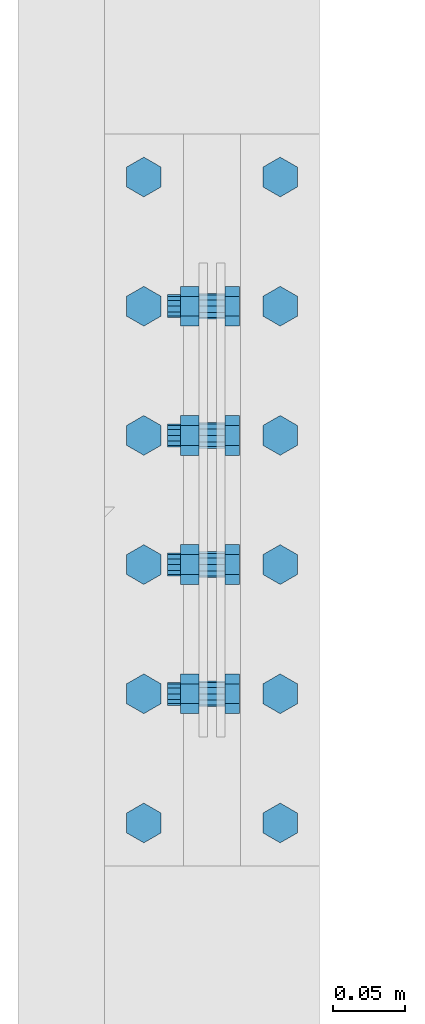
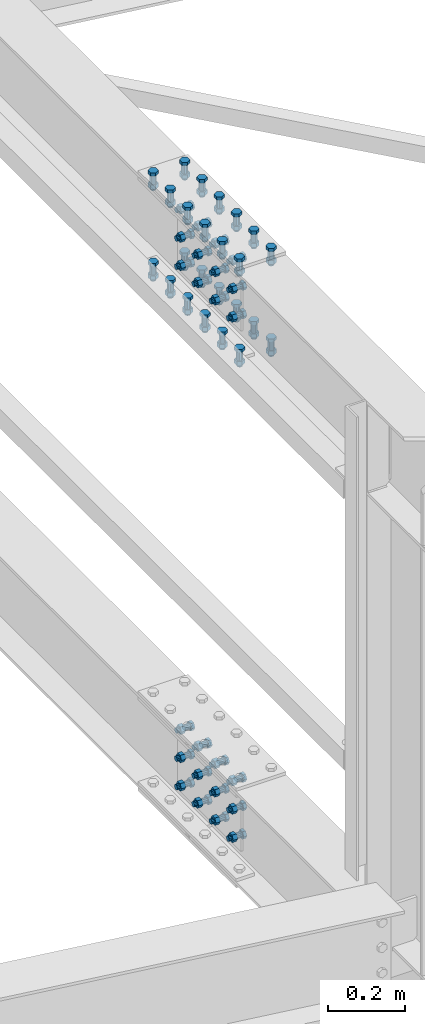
# One storey, part 143 of 3134: 12 mechanical fasteners, 2 elements without a shape of their own.
"""IFC2X3 building model written with IfcOpenShell, lengths in millimetres."""

from ifc_helpers import new_model, si_unit, frame, origin_with_axes, place, context, subcontext, project, spatial, faceted_brep, source, transform, mapped, material, type_object, element, aggregate, save


model = new_model("IFC2X3")

# Units and contexts
model_context = context("Model", 3, precision=1e-05, world=origin_with_axes())
body_context = subcontext(model_context, "Body", "Model", "MODEL_VIEW")
ifc_project = project(units=[si_unit("LENGTHUNIT", "METRE", prefix="MILLI"), si_unit("AREAUNIT", "SQUARE_METRE"), si_unit("VOLUMEUNIT", "CUBIC_METRE"), si_unit("MASSUNIT", "GRAM", prefix="KILO"), si_unit("TIMEUNIT", "SECOND"), si_unit("PLANEANGLEUNIT", "RADIAN"), si_unit("SOLIDANGLEUNIT", "STERADIAN"), si_unit("THERMODYNAMICTEMPERATUREUNIT", "DEGREE_CELSIUS"), si_unit("LUMINOUSINTENSITYUNIT", "LUMEN")], contexts=[model_context])

# Site, building, storey
site_placement = place(None, origin_with_axes())
site = spatial("IfcSite", under=ifc_project, at=site_placement, CompositionType="ELEMENT")
building_placement = place(site_placement, origin_with_axes())
building = spatial("IfcBuilding", under=site, at=building_placement, Name="Undefined", CompositionType="ELEMENT")
storey_placement = place(building_placement, origin_with_axes())
storey = spatial("IfcBuildingStorey", under=building, at=storey_placement, Name="Undefined", CompositionType="ELEMENT", Elevation=0.0)

# Assembly, mechanical fastener
assembly_1_placement = place(storey_placement, origin_with_axes())
assembly_1 = element("IfcElementAssembly", 1, at=assembly_1_placement, inside=storey, Name="300", AssemblyPlace="NOTDEFINED", PredefinedType="RIGID_FRAME")
ifc_material = material(Name="8.8")
mechanical_fastener_type = type_object("IfcMechanicalFastenerType", Name="Bolt assembly")
shared_shape_1 = source(origin_with_axes(), body_context, "Body", "Brep", [
    faceted_brep([(13.856406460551, -19.0499999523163, 0.0), (6.92820323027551, -19.0499999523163, 12.0), (-6.92820323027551, -19.0499999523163, 12.0), (-13.856406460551, -19.0499999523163, 1.69692038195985e-15), (-6.92820323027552, -19.0499999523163, -12.0), (6.9282032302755, -19.0499999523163, -12.0), (6.9282032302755, -9.04999995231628, -12.0), (-6.92820323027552, -9.04999995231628, -12.0), (-13.856406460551, -9.04999995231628, 1.69692038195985e-15), (-6.92820323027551, -9.04999995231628, 12.0), (6.92820323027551, -9.04999995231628, 12.0), (13.856406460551, -9.04999995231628, 0.0), (8.0, -9.04999995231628, 0.0), (6.92820323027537, -9.04999995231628, 4.00000000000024), (3.99999999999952, -9.04999995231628, 6.92820323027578), (-8.29068785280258e-13, -9.04999995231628, 8.0), (-4.00000000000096, -9.04999995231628, 6.92820323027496), (-6.9282032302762, -9.04999995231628, 3.99999999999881), (-8.0, -9.04999995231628, -1.65813757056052e-12), (-6.92820323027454, -9.04999995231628, -4.00000000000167), (-3.99999999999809, -9.04999995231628, -6.92820323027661), (2.47832457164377e-12, -9.04999995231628, -8.0), (4.00000000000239, -9.04999995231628, -6.92820323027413), (6.92820323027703, -9.04999995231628, -3.99999999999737), (6.92820323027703, 30.9500000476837, -3.99999999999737), (4.00000000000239, 30.9500000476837, -6.92820323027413), (2.47832457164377e-12, 30.9500000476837, -8.0), (-3.99999999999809, 30.9500000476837, -6.92820323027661), (-6.92820323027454, 30.9500000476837, -4.00000000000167), (-8.0, 30.9500000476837, -1.65813757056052e-12), (-6.9282032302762, 30.9500000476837, 3.99999999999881), (-4.00000000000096, 30.9500000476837, 6.92820323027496), (-8.29068785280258e-13, 30.9500000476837, 8.0), (3.99999999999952, 30.9500000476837, 6.92820323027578), (6.92820323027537, 30.9500000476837, 4.00000000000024), (8.0, 30.9500000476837, 0.0), (13.856406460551, 9.04999995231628, 0.0), (6.92820323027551, 9.04999995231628, 12.0), (-6.92820323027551, 9.04999995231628, 12.0), (-13.856406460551, 9.04999995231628, 1.69692038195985e-15), (-6.92820323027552, 9.04999995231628, -12.0), (6.9282032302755, 9.04999995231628, -12.0), (6.9282032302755, 22.0499999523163, -12.0), (-6.92820323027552, 22.0499999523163, -12.0), (-13.856406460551, 22.0499999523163, 1.69692038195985e-15), (-6.92820323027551, 22.0499999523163, 12.0), (6.92820323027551, 22.0499999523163, 12.0), (13.856406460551, 22.0499999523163, 0.0)], [[[0, 1, 2, 3, 4, 5]], [[6, 7, 8, 9, 10, 11]], [[0, 11, 10, 1]], [[1, 10, 9, 2]], [[2, 9, 8, 3]], [[3, 8, 7, 4]], [[4, 7, 6, 5]], [[5, 6, 11, 0]], [[12, 13, 14, 15, 16, 17, 18, 19, 20, 21, 22, 23]], [[24, 25, 26, 27, 28, 29, 30, 31, 32, 33, 34, 35]], [[12, 35, 34, 13]], [[13, 34, 33, 14]], [[14, 33, 32, 15]], [[15, 32, 31, 16]], [[16, 31, 30, 17]], [[17, 30, 29, 18]], [[18, 29, 28, 19]], [[19, 28, 27, 20]], [[20, 27, 26, 21]], [[21, 26, 25, 22]], [[22, 25, 24, 23]], [[23, 24, 35, 12]], [[36, 37, 38, 39, 40, 41]], [[42, 43, 44, 45, 46, 47]], [[36, 47, 46, 37]], [[37, 46, 45, 38]], [[38, 45, 44, 39]], [[39, 44, 43, 40]], [[40, 43, 42, 41]], [[41, 42, 47, 36]]]),
    faceted_brep([(9.0, -8.94999995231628, 0.0), (7.79422863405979, -8.94999995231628, 4.50000000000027), (4.49999999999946, -8.94999995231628, 7.79422863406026), (-9.3270238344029e-13, -8.94999995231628, 9.0), (-4.50000000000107, -8.94999995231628, 7.79422863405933), (-7.79422863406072, -8.94999995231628, 4.49999999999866), (-9.0, -8.94999995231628, -1.86540476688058e-12), (-7.79422863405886, -8.94999995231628, -4.50000000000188), (-4.49999999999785, -8.94999995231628, -7.79422863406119), (2.78811514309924e-12, -8.94999995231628, -9.0), (4.50000000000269, -8.94999995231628, -7.7942286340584), (7.79422863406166, -8.94999995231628, -4.49999999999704), (7.79422863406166, -2.94999995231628, -4.49999999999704), (4.50000000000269, -2.94999995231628, -7.7942286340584), (2.78811514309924e-12, -2.94999995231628, -9.0), (-4.49999999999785, -2.94999995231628, -7.79422863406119), (-7.79422863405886, -2.94999995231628, -4.50000000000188), (-9.0, -2.94999995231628, -1.86540476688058e-12), (-7.79422863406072, -2.94999995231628, 4.49999999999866), (-4.50000000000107, -2.94999995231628, 7.79422863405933), (-9.3270238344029e-13, -2.94999995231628, 9.0), (4.49999999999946, -2.94999995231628, 7.79422863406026), (7.79422863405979, -2.94999995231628, 4.50000000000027), (9.0, -2.94999995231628, 0.0), (9.0, -3.04999995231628, 0.0), (7.79422863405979, -3.04999995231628, 4.50000000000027), (4.49999999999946, -3.04999995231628, 7.79422863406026), (-9.3270238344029e-13, -3.04999995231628, 9.0), (-4.50000000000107, -3.04999995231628, 7.79422863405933), (-7.79422863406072, -3.04999995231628, 4.49999999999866), (-9.0, -3.04999995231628, -1.86540476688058e-12), (-7.79422863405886, -3.04999995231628, -4.50000000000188), (-4.49999999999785, -3.04999995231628, -7.79422863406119), (2.78811514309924e-12, -3.04999995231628, -9.0), (4.50000000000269, -3.04999995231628, -7.7942286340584), (7.79422863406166, -3.04999995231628, -4.49999999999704), (7.79422863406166, 3.04999995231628, -4.49999999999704), (4.50000000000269, 3.04999995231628, -7.7942286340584), (2.78811514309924e-12, 3.04999995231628, -9.0), (-4.49999999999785, 3.04999995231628, -7.79422863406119), (-7.79422863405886, 3.04999995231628, -4.50000000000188), (-9.0, 3.04999995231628, -1.86540476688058e-12), (-7.79422863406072, 3.04999995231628, 4.49999999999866), (-4.50000000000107, 3.04999995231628, 7.79422863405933), (-9.3270238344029e-13, 3.04999995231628, 9.0), (4.49999999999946, 3.04999995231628, 7.79422863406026), (7.79422863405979, 3.04999995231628, 4.50000000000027), (9.0, 3.04999995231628, 0.0), (9.0, 2.95000000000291, 0.0), (7.79422863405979, 2.95000000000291, 4.50000000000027), (4.49999999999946, 2.95000000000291, 7.79422863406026), (-9.3270238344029e-13, 2.95000000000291, 9.0), (-4.50000000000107, 2.95000000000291, 7.79422863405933), (-7.79422863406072, 2.95000000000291, 4.49999999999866), (-9.0, 2.95000000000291, -1.86540476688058e-12), (-7.79422863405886, 2.95000000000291, -4.50000000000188), (-4.49999999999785, 2.95000000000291, -7.79422863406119), (2.78811514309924e-12, 2.95000000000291, -9.0), (4.50000000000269, 2.95000000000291, -7.7942286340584), (7.79422863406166, 2.95000000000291, -4.49999999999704), (7.79422863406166, 9.04999995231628, -4.49999999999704), (4.50000000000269, 9.04999995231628, -7.7942286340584), (2.78811514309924e-12, 9.04999995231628, -9.0), (-4.49999999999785, 9.04999995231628, -7.79422863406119), (-7.79422863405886, 9.04999995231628, -4.50000000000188), (-9.0, 9.04999995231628, -1.86540476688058e-12), (-7.79422863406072, 9.04999995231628, 4.49999999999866), (-4.50000000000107, 9.04999995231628, 7.79422863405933), (-9.3270238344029e-13, 9.04999995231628, 9.0), (4.49999999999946, 9.04999995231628, 7.79422863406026), (7.79422863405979, 9.04999995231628, 4.50000000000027), (9.0, 9.04999995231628, 0.0)], [[[0, 1, 2, 3, 4, 5, 6, 7, 8, 9, 10, 11]], [[12, 13, 14, 15, 16, 17, 18, 19, 20, 21, 22, 23]], [[0, 23, 22, 1]], [[1, 22, 21, 2]], [[2, 21, 20, 3]], [[3, 20, 19, 4]], [[4, 19, 18, 5]], [[5, 18, 17, 6]], [[6, 17, 16, 7]], [[7, 16, 15, 8]], [[8, 15, 14, 9]], [[9, 14, 13, 10]], [[10, 13, 12, 11]], [[11, 12, 23, 0]], [[24, 25, 26, 27, 28, 29, 30, 31, 32, 33, 34, 35]], [[36, 37, 38, 39, 40, 41, 42, 43, 44, 45, 46, 47]], [[24, 47, 46, 25]], [[25, 46, 45, 26]], [[26, 45, 44, 27]], [[27, 44, 43, 28]], [[28, 43, 42, 29]], [[29, 42, 41, 30]], [[30, 41, 40, 31]], [[31, 40, 39, 32]], [[32, 39, 38, 33]], [[33, 38, 37, 34]], [[34, 37, 36, 35]], [[35, 36, 47, 24]], [[48, 49, 50, 51, 52, 53, 54, 55, 56, 57, 58, 59]], [[60, 61, 62, 63, 64, 65, 66, 67, 68, 69, 70, 71]], [[48, 71, 70, 49]], [[49, 70, 69, 50]], [[50, 69, 68, 51]], [[51, 68, 67, 52]], [[52, 67, 66, 53]], [[53, 66, 65, 54]], [[54, 65, 64, 55]], [[55, 64, 63, 56]], [[56, 63, 62, 57]], [[57, 62, 61, 58]], [[58, 61, 60, 59]], [[59, 60, 71, 48]]]),
])
mechanical_fastener_1_placement = place(assembly_1_placement, frame((32525.0, 28369.9, 4088.5), z_axis=(0.0, 0.0, 1.0), x_axis=(0.0, 1.0, 0.0)))
mechanical_fastener_1 = element("IfcMechanicalFastener", 2, at=mechanical_fastener_1_placement, type_object=mechanical_fastener_type, material=ifc_material, Name="Bolt assembly", NominalDiameter=16.0, NominalLength=40.0, context=body_context, shape_type="MappedRepresentation", body=[
    mapped(shared_shape_1, transform((0.0, 0.0, -90.0))),
    mapped(shared_shape_1, transform((90.0, 0.0, -90.0))),
    mapped(shared_shape_1, transform((0.0, 0.0, 0.0))),
    mapped(shared_shape_1, transform((90.0, 0.0, 0.0))),
    mapped(shared_shape_1, transform((0.0, 0.0, 90.0))),
    mapped(shared_shape_1, transform((90.0, 0.0, 90.0))),
])

assembly_2_placement = place(storey_placement, origin_with_axes())
assembly_2 = element("IfcElementAssembly", 3, at=assembly_2_placement, inside=storey, Name="300", AssemblyPlace="NOTDEFINED", PredefinedType="RIGID_FRAME")
mechanical_fastener_2_placement = place(assembly_2_placement, frame((32525.0, 28189.9, 4088.5), z_axis=(0.0, 0.0, 1.0), x_axis=(0.0, 1.0, 0.0)))
mechanical_fastener_2 = element("IfcMechanicalFastener", 4, at=mechanical_fastener_2_placement, type_object=mechanical_fastener_type, material=ifc_material, Name="Bolt assembly", NominalDiameter=16.0, NominalLength=40.0, context=body_context, shape_type="MappedRepresentation", body=[
    mapped(shared_shape_1, transform((0.0, 0.0, -90.0))),
    mapped(shared_shape_1, transform((90.0, 0.0, -90.0))),
    mapped(shared_shape_1, transform((0.0, 0.0, 0.0))),
    mapped(shared_shape_1, transform((90.0, 0.0, 0.0))),
    mapped(shared_shape_1, transform((0.0, 0.0, 90.0))),
    mapped(shared_shape_1, transform((90.0, 0.0, 90.0))),
])

# Mechanical fastener
mechanical_fastener_3_placement = place(assembly_1_placement, frame((32525.0, 28369.9, 5741.5), z_axis=(0.0, 0.0, 1.0), x_axis=(0.0, 1.0, 0.0)))
mechanical_fastener_3 = element("IfcMechanicalFastener", 5, at=mechanical_fastener_3_placement, type_object=mechanical_fastener_type, material=ifc_material, Name="Bolt assembly", NominalDiameter=16.0, NominalLength=40.0, context=body_context, shape_type="MappedRepresentation", body=[
    mapped(shared_shape_1, transform((0.0, 0.0, -90.0))),
    mapped(shared_shape_1, transform((90.0, 0.0, -90.0))),
    mapped(shared_shape_1, transform((0.0, 0.0, 0.0))),
    mapped(shared_shape_1, transform((90.0, 0.0, 0.0))),
    mapped(shared_shape_1, transform((0.0, 0.0, 90.0))),
    mapped(shared_shape_1, transform((90.0, 0.0, 90.0))),
])

mechanical_fastener_4_placement = place(assembly_2_placement, frame((32525.0, 28189.9, 5741.5), z_axis=(0.0, 0.0, 1.0), x_axis=(0.0, 1.0, 0.0)))
mechanical_fastener_4 = element("IfcMechanicalFastener", 6, at=mechanical_fastener_4_placement, type_object=mechanical_fastener_type, material=ifc_material, Name="Bolt assembly", NominalDiameter=16.0, NominalLength=40.0, context=body_context, shape_type="MappedRepresentation", body=[
    mapped(shared_shape_1, transform((0.0, 0.0, -90.0))),
    mapped(shared_shape_1, transform((90.0, 0.0, -90.0))),
    mapped(shared_shape_1, transform((0.0, 0.0, 0.0))),
    mapped(shared_shape_1, transform((90.0, 0.0, 0.0))),
    mapped(shared_shape_1, transform((0.0, 0.0, 90.0))),
    mapped(shared_shape_1, transform((90.0, 0.0, 90.0))),
])

shared_shape_2 = source(origin_with_axes(), body_context, "Body", "Brep", [
    faceted_brep([(13.856406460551, -29.1999998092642, 0.0), (6.92820323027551, -29.1999998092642, 12.0), (-6.92820323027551, -29.1999998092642, 12.0), (-13.856406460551, -29.1999998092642, 1.69692038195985e-15), (-6.92820323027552, -29.1999998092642, -12.0), (6.9282032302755, -29.1999998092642, -12.0), (6.9282032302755, -19.199990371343, -12.0), (-6.92820323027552, -19.199990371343, -12.0), (-13.856406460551, -19.199990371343, 1.69692038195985e-15), (-6.92820323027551, -19.199990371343, 12.0), (6.92820323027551, -19.199990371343, 12.0), (13.856406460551, -19.199990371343, 0.0), (8.0, -19.1999998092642, 0.0), (6.92820323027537, -19.1999998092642, 4.00000000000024), (3.99999999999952, -19.1999998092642, 6.92820323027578), (-8.29068785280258e-13, -19.1999998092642, 8.0), (-4.00000000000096, -19.1999998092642, 6.92820323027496), (-6.9282032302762, -19.1999998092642, 3.99999999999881), (-8.0, -19.1999998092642, -1.65813757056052e-12), (-6.92820323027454, -19.1999998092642, -4.00000000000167), (-3.99999999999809, -19.1999998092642, -6.92820323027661), (2.47832457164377e-12, -19.1999998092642, -8.0), (4.00000000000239, -19.1999998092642, -6.92820323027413), (6.92820323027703, -19.1999998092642, -3.99999999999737), (6.92820323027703, 30.8000001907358, -3.99999999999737), (4.00000000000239, 30.8000001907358, -6.92820323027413), (2.47832457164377e-12, 30.8000001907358, -8.0), (-3.99999999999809, 30.8000001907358, -6.92820323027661), (-6.92820323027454, 30.8000001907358, -4.00000000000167), (-8.0, 30.8000001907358, -1.65813757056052e-12), (-6.9282032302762, 30.8000001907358, 3.99999999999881), (-4.00000000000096, 30.8000001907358, 6.92820323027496), (-8.29068785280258e-13, 30.8000001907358, 8.0), (3.99999999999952, 30.8000001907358, 6.92820323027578), (6.92820323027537, 30.8000001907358, 4.00000000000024), (8.0, 30.8000001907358, 0.0), (13.856406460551, 9.99999995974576, 0.0), (6.92820323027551, 9.99999995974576, 12.0), (-6.92820323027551, 9.99999995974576, 12.0), (-13.856406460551, 9.99999995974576, 1.69692038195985e-15), (-6.92820323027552, 9.99999995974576, -12.0), (6.9282032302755, 9.99999995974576, -12.0), (6.9282032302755, 22.9999913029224, -12.0), (-6.92820323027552, 22.9999913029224, -12.0), (-13.856406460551, 22.9999913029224, 1.69692038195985e-15), (-6.92820323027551, 22.9999913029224, 12.0), (6.92820323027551, 22.9999913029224, 12.0), (13.856406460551, 22.9999913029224, 0.0)], [[[0, 1, 2, 3, 4, 5]], [[6, 7, 8, 9, 10, 11]], [[0, 11, 10, 1]], [[1, 10, 9, 2]], [[2, 9, 8, 3]], [[3, 8, 7, 4]], [[4, 7, 6, 5]], [[5, 6, 11, 0]], [[12, 13, 14, 15, 16, 17, 18, 19, 20, 21, 22, 23]], [[24, 25, 26, 27, 28, 29, 30, 31, 32, 33, 34, 35]], [[12, 35, 34, 13]], [[13, 34, 33, 14]], [[14, 33, 32, 15]], [[15, 32, 31, 16]], [[16, 31, 30, 17]], [[17, 30, 29, 18]], [[18, 29, 28, 19]], [[19, 28, 27, 20]], [[20, 27, 26, 21]], [[21, 26, 25, 22]], [[22, 25, 24, 23]], [[23, 24, 35, 12]], [[36, 37, 38, 39, 40, 41]], [[42, 43, 44, 45, 46, 47]], [[36, 47, 46, 37]], [[37, 46, 45, 38]], [[38, 45, 44, 39]], [[39, 44, 43, 40]], [[40, 43, 42, 41]], [[41, 42, 47, 36]]]),
    faceted_brep([(9.0, -19.0999998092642, 0.0), (7.79422863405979, -19.0999998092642, 4.50000000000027), (4.49999999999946, -19.0999998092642, 7.79422863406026), (-9.3270238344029e-13, -19.0999998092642, 9.0), (-4.50000000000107, -19.0999998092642, 7.79422863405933), (-7.79422863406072, -19.0999998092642, 4.49999999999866), (-9.0, -19.0999998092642, -1.86540476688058e-12), (-7.79422863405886, -19.0999998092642, -4.50000000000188), (-4.49999999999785, -19.0999998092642, -7.79422863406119), (2.78811514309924e-12, -19.0999998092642, -9.0), (4.50000000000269, -19.0999998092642, -7.7942286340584), (7.79422863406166, -19.0999998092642, -4.49999999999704), (7.79422863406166, -9.09999037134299, -4.49999999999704), (4.50000000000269, -9.09999037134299, -7.7942286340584), (2.78811514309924e-12, -9.09999037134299, -9.0), (-4.49999999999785, -9.09999037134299, -7.79422863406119), (-7.79422863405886, -9.09999037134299, -4.50000000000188), (-9.0, -9.09999037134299, -1.86540476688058e-12), (-7.79422863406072, -9.09999037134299, 4.49999999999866), (-4.50000000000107, -9.09999037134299, 7.79422863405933), (-9.3270238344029e-13, -9.09999037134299, 9.0), (4.49999999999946, -9.09999037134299, 7.79422863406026), (7.79422863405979, -9.09999037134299, 4.50000000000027), (9.0, -9.09999037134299, 0.0), (9.0, -9.20000008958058, 0.0), (7.79422863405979, -9.20000008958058, 4.50000000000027), (4.49999999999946, -9.20000008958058, 7.79422863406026), (-9.3270238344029e-13, -9.20000008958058, 9.0), (-4.50000000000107, -9.20000008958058, 7.79422863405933), (-7.79422863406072, -9.20000008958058, 4.49999999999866), (-9.0, -9.20000008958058, -1.86540476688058e-12), (-7.79422863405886, -9.20000008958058, -4.50000000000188), (-4.49999999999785, -9.20000008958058, -7.79422863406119), (2.78811514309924e-12, -9.20000008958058, -9.0), (4.50000000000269, -9.20000008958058, -7.7942286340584), (7.79422863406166, -9.20000008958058, -4.49999999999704), (7.79422863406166, -3.46568413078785e-07, -4.49999999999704), (4.50000000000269, -3.46568413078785e-07, -7.7942286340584), (2.78811514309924e-12, -3.46568413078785e-07, -9.0), (-4.49999999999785, -3.46568413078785e-07, -7.79422863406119), (-7.79422863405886, -3.46568413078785e-07, -4.50000000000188), (-9.0, -3.46568413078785e-07, -1.86540476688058e-12), (-7.79422863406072, -3.46568413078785e-07, 4.49999999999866), (-4.50000000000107, -3.46568413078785e-07, 7.79422863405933), (-9.3270238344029e-13, -3.46568413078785e-07, 9.0), (4.49999999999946, -3.46568413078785e-07, 7.79422863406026), (7.79422863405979, -3.46568413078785e-07, 4.50000000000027), (9.0, -3.46568413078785e-07, 0.0), (9.0, -0.1, 0.0), (7.79422863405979, -0.1, 4.50000000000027), (4.49999999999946, -0.1, 7.79422863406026), (-9.3270238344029e-13, -0.1, 9.0), (-4.50000000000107, -0.1, 7.79422863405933), (-7.79422863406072, -0.1, 4.49999999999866), (-9.0, -0.1, -1.86540476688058e-12), (-7.79422863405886, -0.1, -4.50000000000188), (-4.49999999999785, -0.1, -7.79422863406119), (2.78811514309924e-12, -0.1, -9.0), (4.50000000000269, -0.1, -7.7942286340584), (7.79422863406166, -0.1, -4.49999999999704), (7.79422863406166, 9.99999995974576, -4.49999999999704), (4.50000000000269, 9.99999995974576, -7.7942286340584), (2.78811514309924e-12, 9.99999995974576, -9.0), (-4.49999999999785, 9.99999995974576, -7.79422863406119), (-7.79422863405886, 9.99999995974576, -4.50000000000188), (-9.0, 9.99999995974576, -1.86540476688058e-12), (-7.79422863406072, 9.99999995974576, 4.49999999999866), (-4.50000000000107, 9.99999995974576, 7.79422863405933), (-9.3270238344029e-13, 9.99999995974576, 9.0), (4.49999999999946, 9.99999995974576, 7.79422863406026), (7.79422863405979, 9.99999995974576, 4.50000000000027), (9.0, 9.99999995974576, 0.0)], [[[0, 1, 2, 3, 4, 5, 6, 7, 8, 9, 10, 11]], [[12, 13, 14, 15, 16, 17, 18, 19, 20, 21, 22, 23]], [[0, 23, 22, 1]], [[1, 22, 21, 2]], [[2, 21, 20, 3]], [[3, 20, 19, 4]], [[4, 19, 18, 5]], [[5, 18, 17, 6]], [[6, 17, 16, 7]], [[7, 16, 15, 8]], [[8, 15, 14, 9]], [[9, 14, 13, 10]], [[10, 13, 12, 11]], [[11, 12, 23, 0]], [[24, 25, 26, 27, 28, 29, 30, 31, 32, 33, 34, 35]], [[36, 37, 38, 39, 40, 41, 42, 43, 44, 45, 46, 47]], [[24, 47, 46, 25]], [[25, 46, 45, 26]], [[26, 45, 44, 27]], [[27, 44, 43, 28]], [[28, 43, 42, 29]], [[29, 42, 41, 30]], [[30, 41, 40, 31]], [[31, 40, 39, 32]], [[32, 39, 38, 33]], [[33, 38, 37, 34]], [[34, 37, 36, 35]], [[35, 36, 47, 24]], [[48, 49, 50, 51, 52, 53, 54, 55, 56, 57, 58, 59]], [[60, 61, 62, 63, 64, 65, 66, 67, 68, 69, 70, 71]], [[48, 71, 70, 49]], [[49, 70, 69, 50]], [[50, 69, 68, 51]], [[51, 68, 67, 52]], [[52, 67, 66, 53]], [[53, 66, 65, 54]], [[54, 65, 64, 55]], [[55, 64, 63, 56]], [[56, 63, 62, 57]], [[57, 62, 61, 58]], [[58, 61, 60, 59]], [[59, 60, 71, 48]]]),
])
mechanical_fastener_5_placement = place(assembly_1_placement, frame((32572.5, 28369.9, 5880.80000019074), z_axis=(-1.0, 0.0, 0.0), x_axis=(0.0, 1.0, 0.0)))
mechanical_fastener_5 = element("IfcMechanicalFastener", 7, at=mechanical_fastener_5_placement, type_object=mechanical_fastener_type, material=ifc_material, Name="Bolt assembly", NominalDiameter=16.0, NominalLength=50.0, context=body_context, shape_type="MappedRepresentation", body=[
    mapped(shared_shape_2, transform((0.0, 0.0, 0.0))),
    mapped(shared_shape_2, transform((90.0, 0.0, 0.0))),
    mapped(shared_shape_2, transform((180.0, 0.0, 0.0))),
])

mechanical_fastener_6_placement = place(assembly_2_placement, frame((32572.5, 28099.9, 5880.80000019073), z_axis=(-1.0, 0.0, 0.0), x_axis=(0.0, 1.0, 0.0)))
mechanical_fastener_6 = element("IfcMechanicalFastener", 8, at=mechanical_fastener_6_placement, type_object=mechanical_fastener_type, material=ifc_material, Name="Bolt assembly", NominalDiameter=16.0, NominalLength=50.0, context=body_context, shape_type="MappedRepresentation", body=[
    mapped(shared_shape_2, transform((0.0, 0.0, 0.0))),
    mapped(shared_shape_2, transform((90.0, 0.0, 0.0))),
    mapped(shared_shape_2, transform((180.0, 0.0, 0.0))),
])

mechanical_fastener_7_placement = place(assembly_1_placement, frame((32477.5, 28369.9, 5880.80000019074), z_axis=(-1.0, 0.0, 0.0), x_axis=(0.0, 1.0, 0.0)))
mechanical_fastener_7 = element("IfcMechanicalFastener", 9, at=mechanical_fastener_7_placement, type_object=mechanical_fastener_type, material=ifc_material, Name="Bolt assembly", NominalDiameter=16.0, NominalLength=50.0, context=body_context, shape_type="MappedRepresentation", body=[
    mapped(shared_shape_2, transform((0.0, 0.0, 0.0))),
    mapped(shared_shape_2, transform((90.0, 0.0, 0.0))),
    mapped(shared_shape_2, transform((180.0, 0.0, 0.0))),
])

mechanical_fastener_8_placement = place(assembly_2_placement, frame((32477.5, 28099.9, 5880.80000019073), z_axis=(-1.0, 0.0, 0.0), x_axis=(0.0, 1.0, 0.0)))
mechanical_fastener_8 = element("IfcMechanicalFastener", 10, at=mechanical_fastener_8_placement, type_object=mechanical_fastener_type, material=ifc_material, Name="Bolt assembly", NominalDiameter=16.0, NominalLength=50.0, context=body_context, shape_type="MappedRepresentation", body=[
    mapped(shared_shape_2, transform((0.0, 0.0, 0.0))),
    mapped(shared_shape_2, transform((90.0, 0.0, 0.0))),
    mapped(shared_shape_2, transform((180.0, 0.0, 0.0))),
])

shared_shape_3 = source(origin_with_axes(), body_context, "Body", "Brep", [
    faceted_brep([(13.856406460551, -20.0, 0.0), (6.92820323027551, -20.0, 12.0), (-6.92820323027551, -20.0, 12.0), (-13.856406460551, -20.0, 1.69692038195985e-15), (-6.92820323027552, -20.0, -12.0), (6.9282032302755, -20.0, -12.0), (6.9282032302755, -10.0, -12.0), (-6.92820323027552, -10.0, -12.0), (-13.856406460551, -10.0, 1.69692038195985e-15), (-6.92820323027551, -10.0, 12.0), (6.92820323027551, -10.0, 12.0), (13.856406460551, -10.0, 0.0), (8.0, -10.0, 0.0), (6.92820323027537, -10.0, 4.00000000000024), (3.99999999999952, -10.0, 6.92820323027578), (-8.29068785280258e-13, -10.0, 8.0), (-4.00000000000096, -10.0, 6.92820323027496), (-6.9282032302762, -10.0, 3.99999999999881), (-8.0, -10.0, -1.65813757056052e-12), (-6.92820323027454, -10.0, -4.00000000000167), (-3.99999999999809, -10.0, -6.92820323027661), (2.47832457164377e-12, -10.0, -8.0), (4.00000000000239, -10.0, -6.92820323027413), (6.92820323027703, -10.0, -3.99999999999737), (6.92820323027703, 40.0, -3.99999999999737), (4.00000000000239, 40.0, -6.92820323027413), (2.47832457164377e-12, 40.0, -8.0), (-3.99999999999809, 40.0, -6.92820323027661), (-6.92820323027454, 40.0, -4.00000000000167), (-8.0, 40.0, -1.65813757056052e-12), (-6.9282032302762, 40.0, 3.99999999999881), (-4.00000000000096, 40.0, 6.92820323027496), (-8.29068785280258e-13, 40.0, 8.0), (3.99999999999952, 40.0, 6.92820323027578), (6.92820323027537, 40.0, 4.00000000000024), (8.0, 40.0, 0.0), (13.856406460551, 19.1999998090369, 0.0), (6.92820323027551, 19.1999998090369, 12.0), (-6.92820323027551, 19.1999998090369, 12.0), (-13.856406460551, 19.1999998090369, 1.69692038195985e-15), (-6.92820323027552, 19.1999998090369, -12.0), (6.9282032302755, 19.1999998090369, -12.0), (6.9282032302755, 32.1999998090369, -12.0), (-6.92820323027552, 32.1999998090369, -12.0), (-13.856406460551, 32.1999998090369, 1.69692038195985e-15), (-6.92820323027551, 32.1999998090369, 12.0), (6.92820323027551, 32.1999998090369, 12.0), (13.856406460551, 32.1999998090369, 0.0)], [[[0, 1, 2, 3, 4, 5]], [[6, 7, 8, 9, 10, 11]], [[0, 11, 10, 1]], [[1, 10, 9, 2]], [[2, 9, 8, 3]], [[3, 8, 7, 4]], [[4, 7, 6, 5]], [[5, 6, 11, 0]], [[12, 13, 14, 15, 16, 17, 18, 19, 20, 21, 22, 23]], [[24, 25, 26, 27, 28, 29, 30, 31, 32, 33, 34, 35]], [[12, 35, 34, 13]], [[13, 34, 33, 14]], [[14, 33, 32, 15]], [[15, 32, 31, 16]], [[16, 31, 30, 17]], [[17, 30, 29, 18]], [[18, 29, 28, 19]], [[19, 28, 27, 20]], [[20, 27, 26, 21]], [[21, 26, 25, 22]], [[22, 25, 24, 23]], [[23, 24, 35, 12]], [[36, 37, 38, 39, 40, 41]], [[42, 43, 44, 45, 46, 47]], [[36, 47, 46, 37]], [[37, 46, 45, 38]], [[38, 45, 44, 39]], [[39, 44, 43, 40]], [[40, 43, 42, 41]], [[41, 42, 47, 36]]]),
    faceted_brep([(9.0, 9.09999980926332, 0.0), (7.79422863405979, 9.09999980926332, 4.50000000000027), (4.49999999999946, 9.09999980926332, 7.79422863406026), (-9.3270238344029e-13, 9.09999980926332, 9.0), (-4.50000000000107, 9.09999980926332, 7.79422863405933), (-7.79422863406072, 9.09999980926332, 4.49999999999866), (-9.0, 9.09999980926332, -1.86540476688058e-12), (-7.79422863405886, 9.09999980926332, -4.50000000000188), (-4.49999999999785, 9.09999980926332, -7.79422863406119), (2.78811514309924e-12, 9.09999980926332, -9.0), (4.50000000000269, 9.09999980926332, -7.7942286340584), (7.79422863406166, 9.09999980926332, -4.49999999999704), (7.79422863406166, 19.1999998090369, -4.49999999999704), (4.50000000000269, 19.1999998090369, -7.7942286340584), (2.78811514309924e-12, 19.1999998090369, -9.0), (-4.49999999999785, 19.1999998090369, -7.79422863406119), (-7.79422863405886, 19.1999998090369, -4.50000000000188), (-9.0, 19.1999998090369, -1.86540476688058e-12), (-7.79422863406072, 19.1999998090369, 4.49999999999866), (-4.50000000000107, 19.1999998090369, 7.79422863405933), (-9.3270238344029e-13, 19.1999998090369, 9.0), (4.49999999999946, 19.1999998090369, 7.79422863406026), (7.79422863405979, 19.1999998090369, 4.50000000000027), (9.0, 19.1999998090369, 0.0), (9.0, -3.46568413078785e-07, 0.0), (7.79422863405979, -3.46568413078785e-07, 4.50000000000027), (4.49999999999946, -3.46568413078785e-07, 7.79422863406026), (-9.3270238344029e-13, -3.46568413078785e-07, 9.0), (-4.50000000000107, -3.46568413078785e-07, 7.79422863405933), (-7.79422863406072, -3.46568413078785e-07, 4.49999999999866), (-9.0, -3.46568413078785e-07, -1.86540476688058e-12), (-7.79422863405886, -3.46568413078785e-07, -4.50000000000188), (-4.49999999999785, -3.46568413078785e-07, -7.79422863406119), (2.78811514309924e-12, -3.46568413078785e-07, -9.0), (4.50000000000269, -3.46568413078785e-07, -7.7942286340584), (7.79422863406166, -3.46568413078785e-07, -4.49999999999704), (7.79422863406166, 9.19999980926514, -4.49999999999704), (4.50000000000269, 9.19999980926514, -7.7942286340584), (2.78811514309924e-12, 9.19999980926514, -9.0), (-4.49999999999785, 9.19999980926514, -7.79422863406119), (-7.79422863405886, 9.19999980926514, -4.50000000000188), (-9.0, 9.19999980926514, -1.86540476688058e-12), (-7.79422863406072, 9.19999980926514, 4.49999999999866), (-4.50000000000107, 9.19999980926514, 7.79422863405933), (-9.3270238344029e-13, 9.19999980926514, 9.0), (4.49999999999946, 9.19999980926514, 7.79422863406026), (7.79422863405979, 9.19999980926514, 4.50000000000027), (9.0, 9.19999980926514, 0.0), (9.0, -9.89999997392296, 0.0), (7.79422863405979, -9.89999997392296, 4.50000000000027), (4.49999999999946, -9.89999997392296, 7.79422863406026), (-9.3270238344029e-13, -9.89999997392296, 9.0), (-4.50000000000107, -9.89999997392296, 7.79422863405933), (-7.79422863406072, -9.89999997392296, 4.49999999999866), (-9.0, -9.89999997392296, -1.86540476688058e-12), (-7.79422863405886, -9.89999997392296, -4.50000000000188), (-4.49999999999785, -9.89999997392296, -7.79422863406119), (2.78811514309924e-12, -9.89999997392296, -9.0), (4.50000000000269, -9.89999997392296, -7.7942286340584), (7.79422863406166, -9.89999997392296, -4.49999999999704), (7.79422863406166, 0.100000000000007, -4.49999999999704), (4.50000000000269, 0.100000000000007, -7.7942286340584), (2.78811514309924e-12, 0.100000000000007, -9.0), (-4.49999999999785, 0.100000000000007, -7.79422863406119), (-7.79422863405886, 0.100000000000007, -4.50000000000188), (-9.0, 0.100000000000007, -1.86540476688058e-12), (-7.79422863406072, 0.100000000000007, 4.49999999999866), (-4.50000000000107, 0.100000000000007, 7.79422863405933), (-9.3270238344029e-13, 0.100000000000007, 9.0), (4.49999999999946, 0.100000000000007, 7.79422863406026), (7.79422863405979, 0.100000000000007, 4.50000000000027), (9.0, 0.100000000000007, 0.0)], [[[0, 1, 2, 3, 4, 5, 6, 7, 8, 9, 10, 11]], [[12, 13, 14, 15, 16, 17, 18, 19, 20, 21, 22, 23]], [[0, 23, 22, 1]], [[1, 22, 21, 2]], [[2, 21, 20, 3]], [[3, 20, 19, 4]], [[4, 19, 18, 5]], [[5, 18, 17, 6]], [[6, 17, 16, 7]], [[7, 16, 15, 8]], [[8, 15, 14, 9]], [[9, 14, 13, 10]], [[10, 13, 12, 11]], [[11, 12, 23, 0]], [[24, 25, 26, 27, 28, 29, 30, 31, 32, 33, 34, 35]], [[36, 37, 38, 39, 40, 41, 42, 43, 44, 45, 46, 47]], [[24, 47, 46, 25]], [[25, 46, 45, 26]], [[26, 45, 44, 27]], [[27, 44, 43, 28]], [[28, 43, 42, 29]], [[29, 42, 41, 30]], [[30, 41, 40, 31]], [[31, 40, 39, 32]], [[32, 39, 38, 33]], [[33, 38, 37, 34]], [[34, 37, 36, 35]], [[35, 36, 47, 24]], [[48, 49, 50, 51, 52, 53, 54, 55, 56, 57, 58, 59]], [[60, 61, 62, 63, 64, 65, 66, 67, 68, 69, 70, 71]], [[48, 71, 70, 49]], [[49, 70, 69, 50]], [[50, 69, 68, 51]], [[51, 68, 67, 52]], [[52, 67, 66, 53]], [[53, 66, 65, 54]], [[54, 65, 64, 55]], [[55, 64, 63, 56]], [[56, 63, 62, 57]], [[57, 62, 61, 58]], [[58, 61, 60, 59]], [[59, 60, 71, 48]]]),
])
mechanical_fastener_9_placement = place(assembly_1_placement, frame((32572.4999999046, 28369.9, 5602.19999980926), z_axis=(-1.0, 0.0, 0.0), x_axis=(0.0, 1.0, 0.0)))
mechanical_fastener_9 = element("IfcMechanicalFastener", 11, at=mechanical_fastener_9_placement, type_object=mechanical_fastener_type, material=ifc_material, Name="Bolt assembly", NominalDiameter=16.0, NominalLength=50.0, context=body_context, shape_type="MappedRepresentation", body=[
    mapped(shared_shape_3, transform((0.0, 0.0, 0.0))),
    mapped(shared_shape_3, transform((90.0, 0.0, 0.0))),
    mapped(shared_shape_3, transform((180.0, 0.0, 0.0))),
])

mechanical_fastener_10_placement = place(assembly_1_placement, frame((32477.4999999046, 28369.9, 5602.19999980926), z_axis=(-1.0, 0.0, 0.0), x_axis=(0.0, 1.0, 0.0)))
mechanical_fastener_10 = element("IfcMechanicalFastener", 12, at=mechanical_fastener_10_placement, type_object=mechanical_fastener_type, material=ifc_material, Name="Bolt assembly", NominalDiameter=16.0, NominalLength=50.0, context=body_context, shape_type="MappedRepresentation", body=[
    mapped(shared_shape_3, transform((0.0, 0.0, 0.0))),
    mapped(shared_shape_3, transform((90.0, 0.0, 0.0))),
    mapped(shared_shape_3, transform((180.0, 0.0, 0.0))),
])

aggregate(assembly_1, [mechanical_fastener_1, mechanical_fastener_3, mechanical_fastener_9, mechanical_fastener_10, mechanical_fastener_5, mechanical_fastener_7])

mechanical_fastener_11_placement = place(assembly_2_placement, frame((32572.4999999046, 28099.9, 5602.19999980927), z_axis=(-1.0, 0.0, 0.0), x_axis=(0.0, 1.0, 0.0)))
mechanical_fastener_11 = element("IfcMechanicalFastener", 13, at=mechanical_fastener_11_placement, type_object=mechanical_fastener_type, material=ifc_material, Name="Bolt assembly", NominalDiameter=16.0, NominalLength=50.0, context=body_context, shape_type="MappedRepresentation", body=[
    mapped(shared_shape_3, transform((0.0, 0.0, 0.0))),
    mapped(shared_shape_3, transform((90.0, 0.0, 0.0))),
    mapped(shared_shape_3, transform((180.0, 0.0, 0.0))),
])

mechanical_fastener_12_placement = place(assembly_2_placement, frame((32477.4999999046, 28099.9, 5602.19999980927), z_axis=(-1.0, 0.0, 0.0), x_axis=(0.0, 1.0, 0.0)))
mechanical_fastener_12 = element("IfcMechanicalFastener", 14, at=mechanical_fastener_12_placement, type_object=mechanical_fastener_type, material=ifc_material, Name="Bolt assembly", NominalDiameter=16.0, NominalLength=50.0, context=body_context, shape_type="MappedRepresentation", body=[
    mapped(shared_shape_3, transform((0.0, 0.0, 0.0))),
    mapped(shared_shape_3, transform((90.0, 0.0, 0.0))),
    mapped(shared_shape_3, transform((180.0, 0.0, 0.0))),
])

aggregate(assembly_2, [mechanical_fastener_2, mechanical_fastener_4, mechanical_fastener_11, mechanical_fastener_12, mechanical_fastener_6, mechanical_fastener_8])

save(model, "model.ifc")
